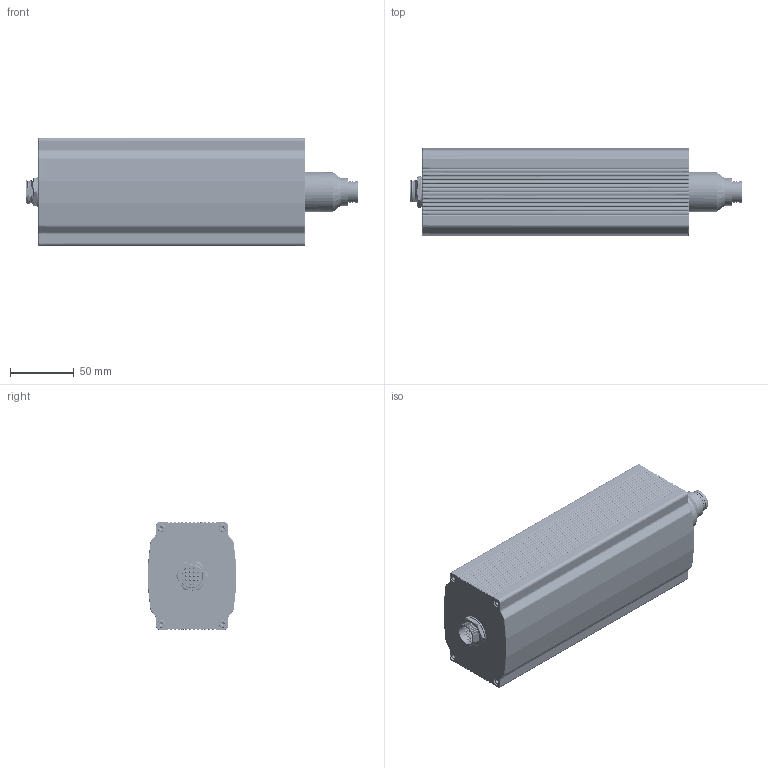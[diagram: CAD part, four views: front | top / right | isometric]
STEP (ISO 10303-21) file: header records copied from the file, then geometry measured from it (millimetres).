
FILE_DESCRIPTION((''),'2;1');
FILE_NAME('FI1060DC-HA','2025-12-25T17:04:29',('Admin'),(''),'CREO PARAMETRIC BY PTC INC, 2020074','CREO PARAMETRIC BY PTC INC, 2020074','');
FILE_SCHEMA(('CONFIG_CONTROL_DESIGN'));
Length unit declared in the file: millimetre
Products named in the file (1): FI1060DC-HA
Bounding box: 260.12 x 69.15 x 84.5 mm (x, y, z)
Volume: 650902.8 mm3; surface area: 234837.3 mm2
Topology: 8 solids, 26 shells, 2790 faces, 7901 edges, 5044 vertices
Faces by surface type: cylinder 1059, plane 626, cone 303, torus 278, bspline 216, sphere 160, extrusion 148
Entity records: 128265 total; most frequent: CARTESIAN_POINT 59825, ORIENTED_EDGE 15589, DIRECTION 12699, EDGE_CURVE 7801, VERTEX_POINT 5043, AXIS2_PLACEMENT_3D 4932, EDGE_LOOP 2980, VECTOR 2835
